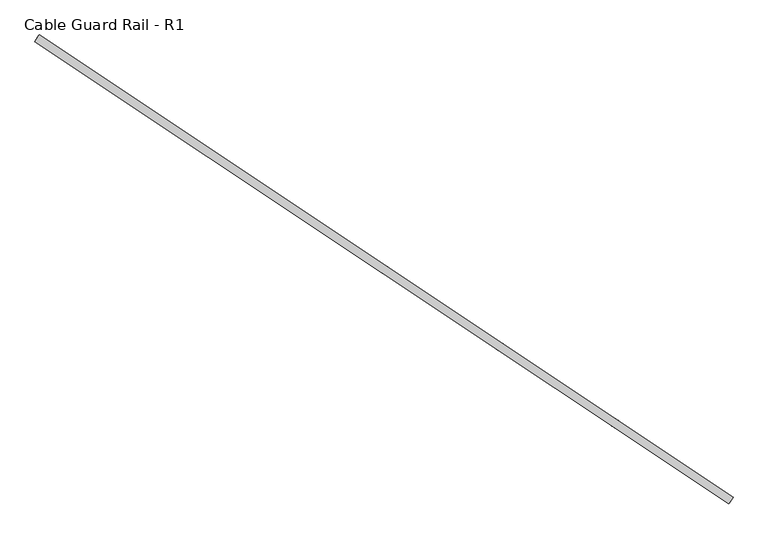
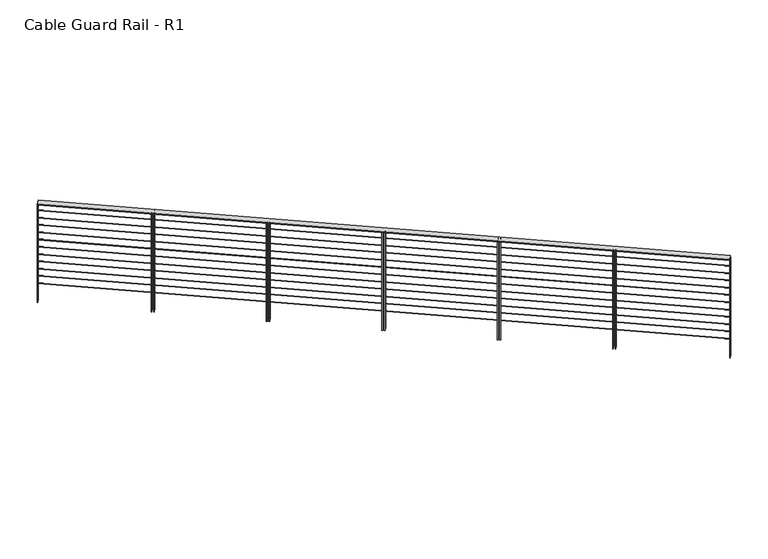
"""IFC4 building model written with IfcOpenShell, lengths in millimetres: railing geometry, Cable Guard Rail - R1."""

import ifcopenshell
import ifcopenshell.guid

model = None  # the IFC model being written
_history = None  # IfcOwnerHistory: only IFC2X3 demands one
_inside = {}  # id of a spatial element -> (the spatial element, [elements in it])
_under = {}  # id of a project, library or spatial element -> (it, [spatial elements below it])
_declared = {}  # id of a project -> (the project, [libraries it declares])
_typed = {}  # id of a type object -> (the type object, [elements of that type])
_made_of = {}  # id of a material, layer set ... -> (it, [elements and type objects made of it])


def new_model(schema):
    """Start an empty IFC model of exactly this schema.

    Asked for "IFC4X3", IfcOpenShell would pick the latest addendum, in which some entities
    have other attributes; the version numbers below select the first issue.
    IFC2X3 requires an IfcOwnerHistory on every rooted entity: one is made here for all.
    """
    global model, _history
    if schema == "IFC4X3":
        model = ifcopenshell.file(schema_version=(4, 3, 0, 0))
    else:
        model = ifcopenshell.file(schema=schema)
    _inside.clear()
    _under.clear()
    _declared.clear()
    _typed.clear()
    _made_of.clear()
    _history = None
    if model.schema == "IFC2X3":
        org = make("IfcOrganization", Name="unknown")
        user = make(
            "IfcPersonAndOrganization",
            ThePerson=make("IfcPerson", FamilyName="unknown"),
            TheOrganization=org,
        )
        app = make(
            "IfcApplication",
            ApplicationDeveloper=org,
            Version="unknown",
            ApplicationFullName="unknown",
            ApplicationIdentifier="unknown",
        )
        _history = make(
            "IfcOwnerHistory",
            OwningUser=user,
            OwningApplication=app,
            ChangeAction="ADDED",
            CreationDate=0,
        )
    return model


def make(cls, **values):
    """One entity of the class cls with the attributes given. An attribute that is None is left unset."""
    return model.create_entity(
        cls, **{name: value for name, value in values.items() if value is not None}
    )


def rooted(cls, **values):
    """An entity with a GlobalId (a new one), such as an element, a storey or a relation."""
    return make(cls, GlobalId=ifcopenshell.guid.new(), OwnerHistory=_history, **values)


def si_unit(unit_type, name, prefix=None):
    """IfcSIUnit, for example si_unit("LENGTHUNIT", "METRE", prefix="MILLI")."""
    return make("IfcSIUnit", UnitType=unit_type, Prefix=prefix, Name=name)


def assignment(units):
    """IfcUnitAssignment: the units of a project."""
    return None if units is None else make("IfcUnitAssignment", Units=units)


def point(xyz):
    """IfcCartesianPoint."""
    return None if xyz is None else make("IfcCartesianPoint", Coordinates=xyz)


def direction(xyz):
    """IfcDirection."""
    return None if xyz is None else make("IfcDirection", DirectionRatios=xyz)


def frame(location, z_axis=None, x_axis=None):
    """IfcAxis2Placement3D, a coordinate frame: its origin and axes. An axis left out is left unset."""
    return make(
        "IfcAxis2Placement3D",
        Location=point(location),
        Axis=direction(z_axis),
        RefDirection=direction(x_axis),
    )


def origin():
    """The frame at (0, 0, 0) with its axes left unset."""
    return frame((0.0, 0.0, 0.0))


def place(relative_to, where):
    """IfcLocalPlacement: puts the frame where relative to a parent placement (None: the world)."""
    return make(
        "IfcLocalPlacement", PlacementRelTo=relative_to, RelativePlacement=where
    )


def context(
    kind, dimensions, precision=None, world=None, true_north=None, identifier=None
):
    """IfcGeometricRepresentationContext, for example the 3D "Model" context."""
    return make(
        "IfcGeometricRepresentationContext",
        ContextIdentifier=identifier,
        ContextType=kind,
        CoordinateSpaceDimension=dimensions,
        Precision=precision,
        WorldCoordinateSystem=world,
        TrueNorth=true_north,
    )


def project(units=None, contexts=None):
    """IfcProject with its units and contexts."""
    return rooted(
        "IfcProject",
        Name="project",
        RepresentationContexts=contexts,
        UnitsInContext=assignment(units),
    )


def spatial(cls, under=None, at=None, **own):
    """A site, building, storey or space (cls), placed at a placement, below another one or the project."""
    s = rooted(cls, ObjectPlacement=at, **own)
    if under is not None:
        _under.setdefault(under.id(), (under, []))[1].append(s)
    return s


def polyline(points):
    """IfcPolyline through the points."""
    return make("IfcPolyline", Points=[point(p) for p in points])


def ellipse_curve(where, semi_axis1, semi_axis2):
    """IfcEllipse in the frame where."""
    return make(
        "IfcEllipse", Position=where, SemiAxis1=semi_axis1, SemiAxis2=semi_axis2
    )


def outline(outer, holes=None, kind="AREA"):
    """IfcArbitraryClosedProfileDef: a profile drawn as a closed curve; with holes, ...WithVoids."""
    if holes is None:
        return make("IfcArbitraryClosedProfileDef", ProfileType=kind, OuterCurve=outer)
    return make(
        "IfcArbitraryProfileDefWithVoids",
        ProfileType=kind,
        OuterCurve=outer,
        InnerCurves=holes,
    )


def extrude(swept, where, along, depth):
    """IfcExtrudedAreaSolid: the profile swept, set in the frame where, extruded along a direction by depth."""
    return make(
        "IfcExtrudedAreaSolid",
        SweptArea=swept,
        Position=where,
        ExtrudedDirection=direction(along),
        Depth=depth,
    )


def faces_of(points, faces, orient=None, outer=None):
    """IfcFace entities. A face is a list of loops; a loop is a list of indices into points, from 0.

    orient and outer hold one flag for each loop. By default every Orientation is true, the
    first loop of a face is its IfcFaceOuterBound and the others are IfcFaceBound.
    """
    made = []
    for i, loops in enumerate(faces):
        bounds = []
        for j, loop in enumerate(loops):
            is_outer = j == 0 if outer is None else outer[i][j]
            bounds.append(
                make(
                    "IfcFaceOuterBound" if is_outer else "IfcFaceBound",
                    Bound=make("IfcPolyLoop", Polygon=[points[k] for k in loop]),
                    Orientation=True if orient is None else orient[i][j],
                )
            )
        made.append(make("IfcFace", Bounds=bounds))
    return made


def faceted_brep(points, faces, orient=None, outer=None, voids=None):
    """IfcFacetedBrep: a solid bounded by flat faces; with voids (closed shells), ...WithVoids."""
    shared = [point(p) for p in points]
    hull = make("IfcClosedShell", CfsFaces=faces_of(shared, faces, orient, outer))
    if voids is None:
        return make("IfcFacetedBrep", Outer=hull)
    return make(
        "IfcFacetedBrepWithVoids",
        Outer=hull,
        Voids=[
            make(cls, CfsFaces=faces_of(shared, fs, o, b)) for cls, fs, o, b in voids
        ],
    )


def shape(context_of_items, identifier, shape_type, items):
    """IfcShapeRepresentation: the items that make up one representation, for example the "Body"."""
    return make(
        "IfcShapeRepresentation",
        ContextOfItems=context_of_items,
        RepresentationIdentifier=identifier,
        RepresentationType=shape_type,
        Items=items,
    )


def source(mapping_origin, context_of_items, identifier, shape_type, items):
    """IfcRepresentationMap: a shape defined once, which mapped items show again and again."""
    return make(
        "IfcRepresentationMap",
        MappingOrigin=mapping_origin,
        MappedRepresentation=shape(context_of_items, identifier, shape_type, items),
    )


def transform(
    local_origin,
    x_axis=None,
    y_axis=None,
    z_axis=None,
    scale=None,
    scale2=None,
    scale3=None,
    uniform=True,
):
    """IfcCartesianTransformationOperator3D, or its non-uniform kind. x_axis, y_axis, z_axis: its Axis1, 2, 3."""
    if uniform:
        return make(
            "IfcCartesianTransformationOperator3D",
            Axis1=direction(x_axis),
            Axis2=direction(y_axis),
            LocalOrigin=point(local_origin),
            Scale=scale,
            Axis3=direction(z_axis),
        )
    return make(
        "IfcCartesianTransformationOperator3DnonUniform",
        Axis1=direction(x_axis),
        Axis2=direction(y_axis),
        LocalOrigin=point(local_origin),
        Scale=scale,
        Axis3=direction(z_axis),
        Scale2=scale2,
        Scale3=scale3,
    )


def mapped(mapping_source, mapping_target):
    """IfcMappedItem: shows the shape of a source again, moved by a transform."""
    return make(
        "IfcMappedItem", MappingSource=mapping_source, MappingTarget=mapping_target
    )


def made_of(thing, what):
    """Note that an element or type object is made of a material, layer set ...; save() writes the relation."""
    if what is not None:
        _made_of.setdefault(what.id(), (what, []))[1].append(thing)
    return thing


def element(
    cls,
    number,
    at=None,
    inside=None,
    cuts=None,
    type_object=None,
    material=None,
    context=None,
    identifier="Body",
    shape_type=None,
    held_by="IfcProductDefinitionShape",
    body=None,
    shapes=None,
    **own,
):
    """One element of the class cls, such as IfcWall. Its Tag is "e" and its number.

    at: its placement. inside: the storey or other place that contains it. cuts: it is an
    opening in that element (IfcRelVoidsElement). A single representation is given by context,
    identifier, shape_type and body (its items); several are given by shapes. held_by: the class
    of the entity that holds the representations. save() writes the other relations.
    """
    e = rooted(cls, Tag="e%d" % number, ObjectPlacement=at, **own)
    if body is not None:
        shapes = [shape(context, identifier, shape_type, body)]
    if shapes is not None:
        e.Representation = make(held_by, Representations=shapes)
    if inside is not None:
        _inside.setdefault(inside.id(), (inside, []))[1].append(e)
    if cuts is not None:
        rooted(
            "IfcRelVoidsElement", RelatingBuildingElement=cuts, RelatedOpeningElement=e
        )
    if type_object is not None:
        _typed.setdefault(type_object.id(), (type_object, []))[1].append(e)
    return made_of(e, material)


def aggregate(whole, parts):
    """IfcRelAggregates: a whole, such as a stair, and the parts it consists of."""
    return rooted("IfcRelAggregates", RelatingObject=whole, RelatedObjects=parts)


def save(model, path):
    """Write the relations noted so far, then the file.

    IfcRelAggregates (storeys below a building ...), IfcRelContainedInSpatialStructure (elements
    in a storey), IfcRelDefinesByType, IfcRelAssociatesMaterial and IfcRelDeclares: one each for
    every whole, place, type object, material and project.
    """
    for whole, parts in _under.values():
        aggregate(whole, parts)
    for where, things in _inside.values():
        rooted(
            "IfcRelContainedInSpatialStructure",
            RelatedElements=things,
            RelatingStructure=where,
        )
    for kind, things in _typed.values():
        rooted("IfcRelDefinesByType", RelatedObjects=things, RelatingType=kind)
    for what, things in _made_of.values():
        rooted("IfcRelAssociatesMaterial", RelatedObjects=things, RelatingMaterial=what)
    for by, libraries in _declared.values():
        rooted("IfcRelDeclares", RelatingContext=by, RelatedDefinitions=libraries)
    model.write(path)


def plane_surface(at):
    """IfcPlane: the flat surface through the origin of the frame at, square to its z axis."""
    return make("IfcPlane", Position=at)


def cylinder_surface(at, radius):
    """IfcCylindricalSurface: all points at the distance radius from the z axis of the frame at."""
    return make("IfcCylindricalSurface", Position=at, Radius=radius)


def advanced_brep(points, edges, surfaces, faces):
    """IfcAdvancedBrep: a solid bounded by faces that lie on surfaces and meet in shared edges.

    An edge is (start, end): straight between two places in points (the first is 0);
    or (start, end, curve); or (start, end, curve, False) where it runs against its curve.
    A face is (place in surfaces, loops), or (place, loops, False) where it looks against
    its surface's normal. A loop lists edges by number (the first is 1), with a minus sign
    where the edge is run from its end to its start. The first loop is the outer one.
    """
    corners = [point(p) for p in points]
    vertices = [make("IfcVertexPoint", VertexGeometry=c) for c in corners]
    made = []
    for start, end, *more in edges:
        made.append(
            make(
                "IfcEdgeCurve",
                EdgeStart=vertices[start],
                EdgeEnd=vertices[end],
                EdgeGeometry=more[0] if more else make("IfcPolyline", Points=[corners[start], corners[end]]),
                SameSense=more[1] if len(more) > 1 else True,
            )
        )
    hull = []
    for where, loops, *sense in faces:
        bounds = []
        for j, loop in enumerate(loops):
            ring = [make("IfcOrientedEdge", EdgeElement=made[abs(k) - 1], Orientation=k > 0) for k in loop]
            bounds.append(
                make(
                    "IfcFaceOuterBound" if j == 0 else "IfcFaceBound",
                    Bound=make("IfcEdgeLoop", EdgeList=ring),
                    Orientation=True,
                )
            )
        hull.append(make("IfcAdvancedFace", Bounds=bounds, FaceSurface=surfaces[where], SameSense=sense[0] if sense else True))
    return make("IfcAdvancedBrep", Outer=make("IfcClosedShell", CfsFaces=hull))


def cable_guard_rail_r1_89b2fc0e(model_context):
    return source(origin(), model_context, "Body", "SolidModel", [
        faceted_brep([(39946.1446481, 180894.6217699, 294879.9137585), (39988.3969999, 180958.034535, 294879.9137585), (39988.3969999, 180958.034535, 294867.1960966), (39946.1446481, 180894.6217699, 294867.1960966), (46535.1200533, 176504.3431583, 294462.2), (46535.1200533, 176504.3431583, 294449.4823381), (46577.372405, 176567.7559233, 294449.4823381), (46577.372405, 176567.7559233, 294462.2)], [[[0, 1, 2, 3]], [[4, 5, 6, 7]], [[1, 0, 4, 7]], [[2, 1, 7, 6]], [[3, 2, 6, 5]], [[0, 3, 5, 4]]]),
        advanced_brep(
        [(39969.0313387, 180928.970351, 294765.6137585), (39965.5103093, 180923.6859539, 294765.6137585), (46558.0067438, 176538.6917393, 294347.9), (46554.4857145, 176533.4073422, 294347.9)],
        [
            (0, 1, ellipse_curve(frame((39967.270824, 180926.3281525, 294765.6137585), z_axis=(-0.8321885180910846, 0.554492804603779, 0.0), x_axis=(0.0, 0.0, 1.0)), 3.1794155, 3.175)),
            (1, 0, ellipse_curve(frame((39967.270824, 180926.3281525, 294765.6137585), z_axis=(-0.8321885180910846, 0.554492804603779, 0.0), x_axis=(0.0, 0.0, 1.0)), 3.1794155, 3.175)),
            (2, 3, ellipse_curve(frame((46556.2462291, 176536.0495408, 294347.9), z_axis=(0.8321885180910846, -0.554492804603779, 0.0), x_axis=(0.0, 0.0, 1.0)), 3.1794155, 3.175)),
            (3, 2, ellipse_curve(frame((46556.2462291, 176536.0495408, 294347.9), z_axis=(0.8321885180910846, -0.554492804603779, 0.0), x_axis=(0.0, 0.0, 1.0)), 3.1794155, 3.175)),
            (0, 2),
            (3, 1),
        ],
        [
            plane_surface(frame((39967.270824, 180926.3281525, 294765.6137585), z_axis=(-0.8321885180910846, 0.554492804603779, 0.0), x_axis=(0.554492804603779, 0.8321885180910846, 0.0))),
            plane_surface(frame((46556.2462291, 176536.0495408, 294347.9), z_axis=(0.8321885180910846, -0.554492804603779, 0.0), x_axis=(0.554492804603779, 0.8321885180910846, 0.0))),
            cylinder_surface(frame((39967.270824, 180926.3281525, 294765.6137585), z_axis=(-0.8310328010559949, 0.5537227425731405, 0.052684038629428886), x_axis=(-0.554492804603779, -0.8321885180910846, 0.0)), 3.175),
        ],
        [
            (0, [[1, 2]]),
            (1, [[3, 4]]),
            (2, [[-1, 5, -4, 6]]),
            (2, [[-2, -6, -3, -5]]),
        ],
    ),
        advanced_brep(
        [(39969.0313387, 180928.970351, 294664.0137585), (39965.5103093, 180923.6859539, 294664.0137585), (46558.0067438, 176538.6917393, 294246.3), (46554.4857145, 176533.4073422, 294246.3)],
        [
            (0, 1, ellipse_curve(frame((39967.270824, 180926.3281525, 294664.0137585), z_axis=(-0.8321885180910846, 0.554492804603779, 0.0), x_axis=(0.0, 0.0, 1.0)), 3.1794155, 3.175)),
            (1, 0, ellipse_curve(frame((39967.270824, 180926.3281525, 294664.0137585), z_axis=(-0.8321885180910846, 0.554492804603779, 0.0), x_axis=(0.0, 0.0, 1.0)), 3.1794155, 3.175)),
            (2, 3, ellipse_curve(frame((46556.2462291, 176536.0495408, 294246.3), z_axis=(0.8321885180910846, -0.554492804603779, 0.0), x_axis=(0.0, 0.0, 1.0)), 3.1794155, 3.175)),
            (3, 2, ellipse_curve(frame((46556.2462291, 176536.0495408, 294246.3), z_axis=(0.8321885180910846, -0.554492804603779, 0.0), x_axis=(0.0, 0.0, 1.0)), 3.1794155, 3.175)),
            (0, 2),
            (3, 1),
        ],
        [
            plane_surface(frame((39967.270824, 180926.3281525, 294664.0137585), z_axis=(-0.8321885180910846, 0.554492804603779, 0.0), x_axis=(0.554492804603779, 0.8321885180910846, 0.0))),
            plane_surface(frame((46556.2462291, 176536.0495408, 294246.3), z_axis=(0.8321885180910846, -0.554492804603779, 0.0), x_axis=(0.554492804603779, 0.8321885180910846, 0.0))),
            cylinder_surface(frame((39967.270824, 180926.3281525, 294664.0137585), z_axis=(-0.8310328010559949, 0.5537227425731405, 0.052684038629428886), x_axis=(-0.554492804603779, -0.8321885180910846, 0.0)), 3.175),
        ],
        [
            (0, [[1, 2]]),
            (1, [[3, 4]]),
            (2, [[-1, 5, -4, 6]]),
            (2, [[-2, -6, -3, -5]]),
        ],
    ),
        advanced_brep(
        [(39969.0313387, 180928.970351, 294562.4137585), (39965.5103093, 180923.6859539, 294562.4137585), (46558.0067438, 176538.6917393, 294144.7), (46554.4857145, 176533.4073422, 294144.7)],
        [
            (0, 1, ellipse_curve(frame((39967.270824, 180926.3281525, 294562.4137585), z_axis=(-0.8321885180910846, 0.554492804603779, 0.0), x_axis=(0.0, 0.0, 1.0)), 3.1794155, 3.175)),
            (1, 0, ellipse_curve(frame((39967.270824, 180926.3281525, 294562.4137585), z_axis=(-0.8321885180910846, 0.554492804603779, 0.0), x_axis=(0.0, 0.0, 1.0)), 3.1794155, 3.175)),
            (2, 3, ellipse_curve(frame((46556.2462291, 176536.0495408, 294144.7), z_axis=(0.8321885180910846, -0.554492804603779, 0.0), x_axis=(0.0, 0.0, 1.0)), 3.1794155, 3.175)),
            (3, 2, ellipse_curve(frame((46556.2462291, 176536.0495408, 294144.7), z_axis=(0.8321885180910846, -0.554492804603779, 0.0), x_axis=(0.0, 0.0, 1.0)), 3.1794155, 3.175)),
            (0, 2),
            (3, 1),
        ],
        [
            plane_surface(frame((39967.270824, 180926.3281525, 294562.4137585), z_axis=(-0.8321885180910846, 0.554492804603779, 0.0), x_axis=(0.554492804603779, 0.8321885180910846, 0.0))),
            plane_surface(frame((46556.2462291, 176536.0495408, 294144.7), z_axis=(0.8321885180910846, -0.554492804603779, 0.0), x_axis=(0.554492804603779, 0.8321885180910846, 0.0))),
            cylinder_surface(frame((39967.270824, 180926.3281525, 294562.4137585), z_axis=(-0.8310328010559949, 0.5537227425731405, 0.052684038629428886), x_axis=(-0.554492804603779, -0.8321885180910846, 0.0)), 3.175),
        ],
        [
            (0, [[1, 2]]),
            (1, [[3, 4]]),
            (2, [[-1, 5, -4, 6]]),
            (2, [[-2, -6, -3, -5]]),
        ],
    ),
        advanced_brep(
        [(39969.0313387, 180928.970351, 294460.8137585), (39965.5103093, 180923.6859539, 294460.8137585), (46558.0067438, 176538.6917393, 294043.1), (46554.4857145, 176533.4073422, 294043.1)],
        [
            (0, 1, ellipse_curve(frame((39967.270824, 180926.3281525, 294460.8137585), z_axis=(-0.8321885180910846, 0.554492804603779, 0.0), x_axis=(0.0, 0.0, 1.0)), 3.1794155, 3.175)),
            (1, 0, ellipse_curve(frame((39967.270824, 180926.3281525, 294460.8137585), z_axis=(-0.8321885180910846, 0.554492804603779, 0.0), x_axis=(0.0, 0.0, 1.0)), 3.1794155, 3.175)),
            (2, 3, ellipse_curve(frame((46556.2462291, 176536.0495408, 294043.1), z_axis=(0.8321885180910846, -0.554492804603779, 0.0), x_axis=(0.0, 0.0, 1.0)), 3.1794155, 3.175)),
            (3, 2, ellipse_curve(frame((46556.2462291, 176536.0495408, 294043.1), z_axis=(0.8321885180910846, -0.554492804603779, 0.0), x_axis=(0.0, 0.0, 1.0)), 3.1794155, 3.175)),
            (0, 2),
            (3, 1),
        ],
        [
            plane_surface(frame((39967.270824, 180926.3281525, 294460.8137585), z_axis=(-0.8321885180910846, 0.554492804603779, 0.0), x_axis=(0.554492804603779, 0.8321885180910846, 0.0))),
            plane_surface(frame((46556.2462291, 176536.0495408, 294043.1), z_axis=(0.8321885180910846, -0.554492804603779, 0.0), x_axis=(0.554492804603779, 0.8321885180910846, 0.0))),
            cylinder_surface(frame((39967.270824, 180926.3281525, 294460.8137585), z_axis=(-0.8310328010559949, 0.5537227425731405, 0.052684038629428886), x_axis=(-0.554492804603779, -0.8321885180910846, 0.0)), 3.175),
        ],
        [
            (0, [[1, 2]]),
            (1, [[3, 4]]),
            (2, [[-1, 5, -4, 6]]),
            (2, [[-2, -6, -3, -5]]),
        ],
    ),
        advanced_brep(
        [(39969.0313387, 180928.970351, 294359.2137585), (39965.5103093, 180923.6859539, 294359.2137585), (46558.0067438, 176538.6917393, 293941.5), (46554.4857145, 176533.4073422, 293941.5)],
        [
            (0, 1, ellipse_curve(frame((39967.270824, 180926.3281525, 294359.2137585), z_axis=(-0.8321885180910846, 0.554492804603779, 0.0), x_axis=(0.0, 0.0, 1.0)), 3.1794155, 3.175)),
            (1, 0, ellipse_curve(frame((39967.270824, 180926.3281525, 294359.2137585), z_axis=(-0.8321885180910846, 0.554492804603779, 0.0), x_axis=(0.0, 0.0, 1.0)), 3.1794155, 3.175)),
            (2, 3, ellipse_curve(frame((46556.2462291, 176536.0495408, 293941.5), z_axis=(0.8321885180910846, -0.554492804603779, 0.0), x_axis=(0.0, 0.0, 1.0)), 3.1794155, 3.175)),
            (3, 2, ellipse_curve(frame((46556.2462291, 176536.0495408, 293941.5), z_axis=(0.8321885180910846, -0.554492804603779, 0.0), x_axis=(0.0, 0.0, 1.0)), 3.1794155, 3.175)),
            (0, 2),
            (3, 1),
        ],
        [
            plane_surface(frame((39967.270824, 180926.3281525, 294359.2137585), z_axis=(-0.8321885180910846, 0.554492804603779, 0.0), x_axis=(0.554492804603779, 0.8321885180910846, 0.0))),
            plane_surface(frame((46556.2462291, 176536.0495408, 293941.5), z_axis=(0.8321885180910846, -0.554492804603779, 0.0), x_axis=(0.554492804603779, 0.8321885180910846, 0.0))),
            cylinder_surface(frame((39967.270824, 180926.3281525, 294359.2137585), z_axis=(-0.8310328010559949, 0.5537227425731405, 0.052684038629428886), x_axis=(-0.554492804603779, -0.8321885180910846, 0.0)), 3.175),
        ],
        [
            (0, [[1, 2]]),
            (1, [[3, 4]]),
            (2, [[-1, 5, -4, 6]]),
            (2, [[-2, -6, -3, -5]]),
        ],
    ),
        advanced_brep(
        [(39969.0313387, 180928.970351, 294257.6137585), (39965.5103093, 180923.6859539, 294257.6137585), (46558.0067438, 176538.6917393, 293839.9), (46554.4857145, 176533.4073422, 293839.9)],
        [
            (0, 1, ellipse_curve(frame((39967.270824, 180926.3281525, 294257.6137585), z_axis=(-0.8321885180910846, 0.554492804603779, 0.0), x_axis=(0.0, 0.0, 1.0)), 3.1794155, 3.175)),
            (1, 0, ellipse_curve(frame((39967.270824, 180926.3281525, 294257.6137585), z_axis=(-0.8321885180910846, 0.554492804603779, 0.0), x_axis=(0.0, 0.0, 1.0)), 3.1794155, 3.175)),
            (2, 3, ellipse_curve(frame((46556.2462291, 176536.0495408, 293839.9), z_axis=(0.8321885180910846, -0.554492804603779, 0.0), x_axis=(0.0, 0.0, 1.0)), 3.1794155, 3.175)),
            (3, 2, ellipse_curve(frame((46556.2462291, 176536.0495408, 293839.9), z_axis=(0.8321885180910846, -0.554492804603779, 0.0), x_axis=(0.0, 0.0, 1.0)), 3.1794155, 3.175)),
            (0, 2),
            (3, 1),
        ],
        [
            plane_surface(frame((39967.270824, 180926.3281525, 294257.6137585), z_axis=(-0.8321885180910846, 0.554492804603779, 0.0), x_axis=(0.554492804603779, 0.8321885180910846, 0.0))),
            plane_surface(frame((46556.2462291, 176536.0495408, 293839.9), z_axis=(0.8321885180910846, -0.554492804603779, 0.0), x_axis=(0.554492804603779, 0.8321885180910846, 0.0))),
            cylinder_surface(frame((39967.270824, 180926.3281525, 294257.6137585), z_axis=(-0.8310328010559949, 0.5537227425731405, 0.052684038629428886), x_axis=(-0.554492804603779, -0.8321885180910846, 0.0)), 3.175),
        ],
        [
            (0, [[1, 2]]),
            (1, [[3, 4]]),
            (2, [[-1, 5, -4, 6]]),
            (2, [[-2, -6, -3, -5]]),
        ],
    ),
        advanced_brep(
        [(39969.0313387, 180928.970351, 294156.0137585), (39965.5103093, 180923.6859539, 294156.0137585), (46558.0067438, 176538.6917393, 293738.3), (46554.4857145, 176533.4073422, 293738.3)],
        [
            (0, 1, ellipse_curve(frame((39967.270824, 180926.3281525, 294156.0137585), z_axis=(-0.8321885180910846, 0.554492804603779, 0.0), x_axis=(0.0, 0.0, 1.0)), 3.1794155, 3.175)),
            (1, 0, ellipse_curve(frame((39967.270824, 180926.3281525, 294156.0137585), z_axis=(-0.8321885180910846, 0.554492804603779, 0.0), x_axis=(0.0, 0.0, 1.0)), 3.1794155, 3.175)),
            (2, 3, ellipse_curve(frame((46556.2462291, 176536.0495408, 293738.3), z_axis=(0.8321885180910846, -0.554492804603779, 0.0), x_axis=(0.0, 0.0, 1.0)), 3.1794155, 3.175)),
            (3, 2, ellipse_curve(frame((46556.2462291, 176536.0495408, 293738.3), z_axis=(0.8321885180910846, -0.554492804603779, 0.0), x_axis=(0.0, 0.0, 1.0)), 3.1794155, 3.175)),
            (0, 2),
            (3, 1),
        ],
        [
            plane_surface(frame((39967.270824, 180926.3281525, 294156.0137585), z_axis=(-0.8321885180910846, 0.554492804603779, 0.0), x_axis=(0.554492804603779, 0.8321885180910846, 0.0))),
            plane_surface(frame((46556.2462291, 176536.0495408, 293738.3), z_axis=(0.8321885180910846, -0.554492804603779, 0.0), x_axis=(0.554492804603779, 0.8321885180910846, 0.0))),
            cylinder_surface(frame((39967.270824, 180926.3281525, 294156.0137585), z_axis=(-0.8310328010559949, 0.5537227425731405, 0.052684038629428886), x_axis=(-0.554492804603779, -0.8321885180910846, 0.0)), 3.175),
        ],
        [
            (0, [[1, 2]]),
            (1, [[3, 4]]),
            (2, [[-1, 5, -4, 6]]),
            (2, [[-2, -6, -3, -5]]),
        ],
    ),
        advanced_brep(
        [(39969.0313387, 180928.970351, 294054.4137585), (39965.5103093, 180923.6859539, 294054.4137585), (46558.0067438, 176538.6917393, 293636.7), (46554.4857145, 176533.4073422, 293636.7)],
        [
            (0, 1, ellipse_curve(frame((39967.270824, 180926.3281525, 294054.4137585), z_axis=(-0.8321885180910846, 0.554492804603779, 0.0), x_axis=(0.0, 0.0, 1.0)), 3.1794155, 3.175)),
            (1, 0, ellipse_curve(frame((39967.270824, 180926.3281525, 294054.4137585), z_axis=(-0.8321885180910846, 0.554492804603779, 0.0), x_axis=(0.0, 0.0, 1.0)), 3.1794155, 3.175)),
            (2, 3, ellipse_curve(frame((46556.2462291, 176536.0495408, 293636.7), z_axis=(0.8321885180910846, -0.554492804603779, 0.0), x_axis=(0.0, 0.0, 1.0)), 3.1794155, 3.175)),
            (3, 2, ellipse_curve(frame((46556.2462291, 176536.0495408, 293636.7), z_axis=(0.8321885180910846, -0.554492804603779, 0.0), x_axis=(0.0, 0.0, 1.0)), 3.1794155, 3.175)),
            (0, 2),
            (3, 1),
        ],
        [
            plane_surface(frame((39967.270824, 180926.3281525, 294054.4137585), z_axis=(-0.8321885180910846, 0.554492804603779, 0.0), x_axis=(0.554492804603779, 0.8321885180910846, 0.0))),
            plane_surface(frame((46556.2462291, 176536.0495408, 293636.7), z_axis=(0.8321885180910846, -0.554492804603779, 0.0), x_axis=(0.554492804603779, 0.8321885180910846, 0.0))),
            cylinder_surface(frame((39967.270824, 180926.3281525, 294054.4137585), z_axis=(-0.8310328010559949, 0.5537227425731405, 0.052684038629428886), x_axis=(-0.554492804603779, -0.8321885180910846, 0.0)), 3.175),
        ],
        [
            (0, [[1, 2]]),
            (1, [[3, 4]]),
            (2, [[-1, 5, -4, 6]]),
            (2, [[-2, -6, -3, -5]]),
        ],
    ),
        advanced_brep(
        [(39969.0313387, 180928.970351, 293952.8137585), (39965.5103093, 180923.6859539, 293952.8137585), (46558.0067438, 176538.6917393, 293535.1), (46554.4857145, 176533.4073422, 293535.1)],
        [
            (0, 1, ellipse_curve(frame((39967.270824, 180926.3281525, 293952.8137585), z_axis=(-0.8321885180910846, 0.554492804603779, 0.0), x_axis=(0.0, 0.0, 1.0)), 3.1794155, 3.175)),
            (1, 0, ellipse_curve(frame((39967.270824, 180926.3281525, 293952.8137585), z_axis=(-0.8321885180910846, 0.554492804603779, 0.0), x_axis=(0.0, 0.0, 1.0)), 3.1794155, 3.175)),
            (2, 3, ellipse_curve(frame((46556.2462291, 176536.0495408, 293535.1), z_axis=(0.8321885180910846, -0.554492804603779, 0.0), x_axis=(0.0, 0.0, 1.0)), 3.1794155, 3.175)),
            (3, 2, ellipse_curve(frame((46556.2462291, 176536.0495408, 293535.1), z_axis=(0.8321885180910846, -0.554492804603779, 0.0), x_axis=(0.0, 0.0, 1.0)), 3.1794155, 3.175)),
            (0, 2),
            (3, 1),
        ],
        [
            plane_surface(frame((39967.270824, 180926.3281525, 293952.8137585), z_axis=(-0.8321885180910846, 0.554492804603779, 0.0), x_axis=(0.554492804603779, 0.8321885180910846, 0.0))),
            plane_surface(frame((46556.2462291, 176536.0495408, 293535.1), z_axis=(0.8321885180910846, -0.554492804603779, 0.0), x_axis=(0.554492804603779, 0.8321885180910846, 0.0))),
            cylinder_surface(frame((39967.270824, 180926.3281525, 293952.8137585), z_axis=(-0.8310328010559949, 0.5537227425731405, 0.052684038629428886), x_axis=(-0.554492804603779, -0.8321885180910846, 0.0)), 3.175),
        ],
        [
            (0, [[1, 2]]),
            (1, [[3, 4]]),
            (2, [[-1, 5, -4, 6]]),
            (2, [[-2, -6, -3, -5]]),
        ],
    ),
        advanced_brep(
        [(39969.0313387, 180928.970351, 293851.2137585), (39965.5103093, 180923.6859539, 293851.2137585), (46558.0067438, 176538.6917393, 293433.5), (46554.4857145, 176533.4073422, 293433.5)],
        [
            (0, 1, ellipse_curve(frame((39967.270824, 180926.3281525, 293851.2137585), z_axis=(-0.8321885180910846, 0.554492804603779, 0.0), x_axis=(0.0, 0.0, 1.0)), 3.1794155, 3.175)),
            (1, 0, ellipse_curve(frame((39967.270824, 180926.3281525, 293851.2137585), z_axis=(-0.8321885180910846, 0.554492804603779, 0.0), x_axis=(0.0, 0.0, 1.0)), 3.1794155, 3.175)),
            (2, 3, ellipse_curve(frame((46556.2462291, 176536.0495408, 293433.5), z_axis=(0.8321885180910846, -0.554492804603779, 0.0), x_axis=(0.0, 0.0, 1.0)), 3.1794155, 3.175)),
            (3, 2, ellipse_curve(frame((46556.2462291, 176536.0495408, 293433.5), z_axis=(0.8321885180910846, -0.554492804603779, 0.0), x_axis=(0.0, 0.0, 1.0)), 3.1794155, 3.175)),
            (0, 2),
            (3, 1),
        ],
        [
            plane_surface(frame((39967.270824, 180926.3281525, 293851.2137585), z_axis=(-0.8321885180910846, 0.554492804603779, 0.0), x_axis=(0.554492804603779, 0.8321885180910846, 0.0))),
            plane_surface(frame((46556.2462291, 176536.0495408, 293433.5), z_axis=(0.8321885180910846, -0.554492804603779, 0.0), x_axis=(0.554492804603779, 0.8321885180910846, 0.0))),
            cylinder_surface(frame((39967.270824, 180926.3281525, 293851.2137585), z_axis=(-0.8310328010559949, 0.5537227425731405, 0.052684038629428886), x_axis=(-0.554492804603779, -0.8321885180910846, 0.0)), 3.175),
        ],
        [
            (0, [[1, 2]]),
            (1, [[3, 4]]),
            (2, [[-1, 5, -4, 6]]),
            (2, [[-2, -6, -3, -5]]),
        ],
    ),
        advanced_brep(
        [(39969.0313387, 180928.970351, 293749.6137585), (39965.5103093, 180923.6859539, 293749.6137585), (46558.0067438, 176538.6917393, 293331.9), (46554.4857145, 176533.4073422, 293331.9)],
        [
            (0, 1, ellipse_curve(frame((39967.270824, 180926.3281525, 293749.6137585), z_axis=(-0.8321885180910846, 0.554492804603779, 0.0), x_axis=(0.0, 0.0, 1.0)), 3.1794155, 3.175)),
            (1, 0, ellipse_curve(frame((39967.270824, 180926.3281525, 293749.6137585), z_axis=(-0.8321885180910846, 0.554492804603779, 0.0), x_axis=(0.0, 0.0, 1.0)), 3.1794155, 3.175)),
            (2, 3, ellipse_curve(frame((46556.2462291, 176536.0495408, 293331.9), z_axis=(0.8321885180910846, -0.554492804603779, 0.0), x_axis=(0.0, 0.0, 1.0)), 3.1794155, 3.175)),
            (3, 2, ellipse_curve(frame((46556.2462291, 176536.0495408, 293331.9), z_axis=(0.8321885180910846, -0.554492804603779, 0.0), x_axis=(0.0, 0.0, 1.0)), 3.1794155, 3.175)),
            (0, 2),
            (3, 1),
        ],
        [
            plane_surface(frame((39967.270824, 180926.3281525, 293749.6137585), z_axis=(-0.8321885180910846, 0.554492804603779, 0.0), x_axis=(0.554492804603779, 0.8321885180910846, 0.0))),
            plane_surface(frame((46556.2462291, 176536.0495408, 293331.9), z_axis=(0.8321885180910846, -0.554492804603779, 0.0), x_axis=(0.554492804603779, 0.8321885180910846, 0.0))),
            cylinder_surface(frame((39967.270824, 180926.3281525, 293749.6137585), z_axis=(-0.8310328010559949, 0.5537227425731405, 0.052684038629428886), x_axis=(-0.554492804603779, -0.8321885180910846, 0.0)), 3.175),
        ],
        [
            (0, [[1, 2]]),
            (1, [[3, 4]]),
            (2, [[-1, 5, -4, 6]]),
            (2, [[-2, -6, -3, -5]]),
        ],
    ),
        extrude(outline(polyline([(45460.7144476, 177311.7926279), (45468.6410433, 177306.5110839), (45426.3886916, 177243.0983188), (45418.4620959, 177248.3798628), (45460.7144476, 177311.7926279)])), frame((0.0, 0.0, 293153.8689597), z_axis=(0.0, 0.0, 1.0), x_axis=(1.0, 0.0, 0.0)), (0.0, 0.0, 1.0), 1365.25),
        extrude(outline(polyline([(45484.4942346, 177295.947996), (45492.3806893, 177290.6931982), (45450.1283375, 177227.2804331), (45442.2418828, 177232.5352309), (45484.4942346, 177295.947996)])), frame((0.0, 0.0, 293153.8689597), z_axis=(0.0, 0.0, 1.0), x_axis=(1.0, 0.0, 0.0)), (0.0, 0.0, 1.0), 1365.25),
        extrude(outline(polyline([(44362.5518801, 178043.5057298), (44370.4784758, 178038.2241858), (44328.226124, 177974.8114208), (44320.2995284, 177980.0929647), (44362.5518801, 178043.5057298)])), frame((0.0, 0.0, 293223.4879195), z_axis=(0.0, 0.0, 1.0), x_axis=(1.0, 0.0, 0.0)), (0.0, 0.0, 1.0), 1365.25),
        extrude(outline(polyline([(44386.331667, 178027.6610979), (44394.2181217, 178022.4063001), (44351.96577, 177958.993535), (44344.0793153, 177964.2483328), (44386.331667, 178027.6610979)])), frame((0.0, 0.0, 293223.4879195), z_axis=(0.0, 0.0, 1.0), x_axis=(1.0, 0.0, 0.0)), (0.0, 0.0, 1.0), 1365.25),
        extrude(outline(polyline([(43264.3893126, 178775.2188317), (43272.3159082, 178769.9372878), (43230.0635565, 178706.5245227), (43222.1369609, 178711.8060667), (43264.3893126, 178775.2188317)])), frame((0.0, 0.0, 293293.1068793), z_axis=(0.0, 0.0, 1.0), x_axis=(1.0, 0.0, 0.0)), (0.0, 0.0, 1.0), 1365.25),
        extrude(outline(polyline([(43288.1690995, 178759.3741999), (43296.0555542, 178754.1194021), (43253.8032025, 178690.706637), (43245.9167478, 178695.9614348), (43288.1690995, 178759.3741999)])), frame((0.0, 0.0, 293293.1068793), z_axis=(0.0, 0.0, 1.0), x_axis=(1.0, 0.0, 0.0)), (0.0, 0.0, 1.0), 1365.25),
        extrude(outline(polyline([(42166.2267451, 179506.9319337), (42174.1533407, 179501.6503897), (42131.900989, 179438.2376247), (42123.9743934, 179443.5191686), (42166.2267451, 179506.9319337)])), frame((0.0, 0.0, 293362.725839), z_axis=(0.0, 0.0, 1.0), x_axis=(1.0, 0.0, 0.0)), (0.0, 0.0, 1.0), 1365.25),
        extrude(outline(polyline([(42190.006532, 179491.0873018), (42197.8929867, 179485.832504), (42155.640635, 179422.4197389), (42147.7541803, 179427.6745367), (42190.006532, 179491.0873018)])), frame((0.0, 0.0, 293362.725839), z_axis=(0.0, 0.0, 1.0), x_axis=(1.0, 0.0, 0.0)), (0.0, 0.0, 1.0), 1365.25),
        extrude(outline(polyline([(41068.0641776, 180238.6450356), (41075.9907732, 180233.3634917), (41033.7384215, 180169.9507266), (41025.8118258, 180175.2322706), (41068.0641776, 180238.6450356)])), frame((0.0, 0.0, 293432.3447988), z_axis=(0.0, 0.0, 1.0), x_axis=(1.0, 0.0, 0.0)), (0.0, 0.0, 1.0), 1365.25),
        extrude(outline(polyline([(41091.8439645, 180222.8004037), (41099.7304192, 180217.545606), (41057.4780675, 180154.1328409), (41049.5916128, 180159.3876387), (41091.8439645, 180222.8004037)])), frame((0.0, 0.0, 293432.3447988), z_axis=(0.0, 0.0, 1.0), x_axis=(1.0, 0.0, 0.0)), (0.0, 0.0, 1.0), 1365.25),
        extrude(outline(polyline([(46571.2091771, 176564.2320409), (46576.4935742, 176560.7110116), (46541.2832811, 176507.8670407), (46535.998884, 176511.38807), (46571.2091771, 176564.2320409)])), frame((0.0, 0.0, 293084.25), z_axis=(0.0, 0.0, 1.0), x_axis=(1.0, 0.0, 0.0)), (0.0, 0.0, 1.0), 1365.25),
        extrude(outline(polyline([(39982.233772, 180954.5106526), (39987.5181691, 180950.9896233), (39952.307876, 180898.1456524), (39947.0234789, 180901.6666817), (39982.233772, 180954.5106526)])), frame((0.0, 0.0, 293501.9637585), z_axis=(0.0, 0.0, 1.0), x_axis=(1.0, 0.0, 0.0)), (0.0, 0.0, 1.0), 1365.25),
    ])


if __name__ == "__main__":
    model = new_model("IFC4")
    model_context = context("Model", 3, world=origin())
    ifc_project = project(units=[si_unit("LENGTHUNIT", "METRE", prefix="MILLI")], contexts=[model_context])
    site = spatial("IfcSite", under=ifc_project)
    building = spatial("IfcBuilding", under=site)
    placement = place(None, origin())
    cable_guard_rail_r1_shape = cable_guard_rail_r1_89b2fc0e(model_context)
    element("IfcRailing", 1, ObjectType="Cable Guard Rail - R1", at=placement, inside=building, context=model_context, shape_type="MappedRepresentation", body=[
        mapped(cable_guard_rail_r1_shape, transform((0.0, 0.0, 0.0), x_axis=(1.0, 0.0, 0.0), y_axis=(0.0, 1.0, 0.0), z_axis=(0.0, 0.0, 1.0))),
    ])
    save(model, "model.ifc")
